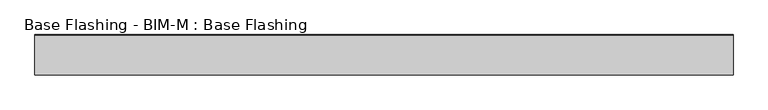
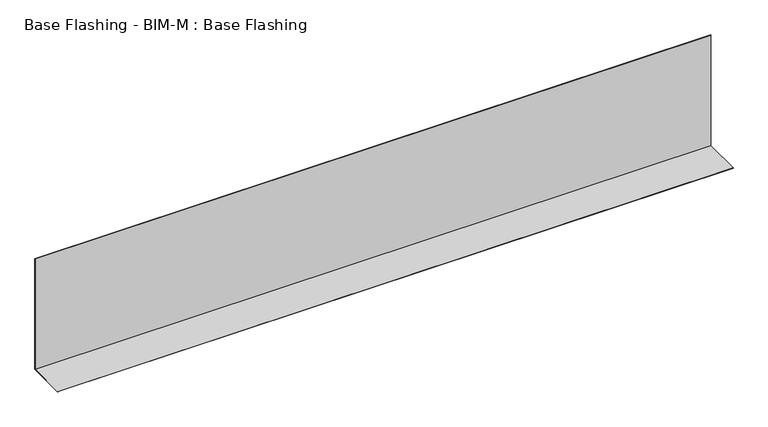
"""IFC4 building model written with IfcOpenShell, lengths in millimetres: proxy geometry, Base Flashing - BIM-M : Base Flashing."""

from ifc_helpers import new_model, si_unit, frame, origin, place, context, project, spatial, polyline, outline, extrude, source, transform, mapped, element, save


def base_flashing_bim_m_base_flashing_472dd1c7(model_context):
    return source(origin(), model_context, "Body", "SweptSolid", [
        extrude(outline(polyline([(0.0, 581.025), (0.0, 0.0), (-193.675, 0.0), (-193.675, 0.79375), (-0.79375, 0.79375), (-0.79375, 581.025), (0.0, 581.025)])), frame((-1676.4, 0.0, 0.0), z_axis=(1.0, 0.0, 0.0), x_axis=(0.0, 1.0, 0.0)), (0.0, 0.0, 1.0), 3352.8),
    ])


if __name__ == "__main__":
    model = new_model("IFC4")
    model_context = context("Model", 3, world=origin())
    ifc_project = project(units=[si_unit("LENGTHUNIT", "METRE", prefix="MILLI")], contexts=[model_context])
    site = spatial("IfcSite", under=ifc_project)
    building = spatial("IfcBuilding", under=site)
    placement = place(None, origin())
    base_flashing_bim_m_base_flashing_shape = base_flashing_bim_m_base_flashing_472dd1c7(model_context)
    element("IfcBuildingElementProxy", 1, Name="Base Flashing - BIM-M : Base Flashing", ObjectType="Base Flashing - BIM-M : Base Flashing", at=placement, inside=building, context=model_context, shape_type="MappedRepresentation", body=[
        mapped(base_flashing_bim_m_base_flashing_shape, transform((0.0, 0.0, 0.0), x_axis=(1.0, 0.0, 0.0), y_axis=(0.0, 1.0, 0.0), z_axis=(0.0, 0.0, 1.0))),
    ])
    save(model, "model.ifc")
